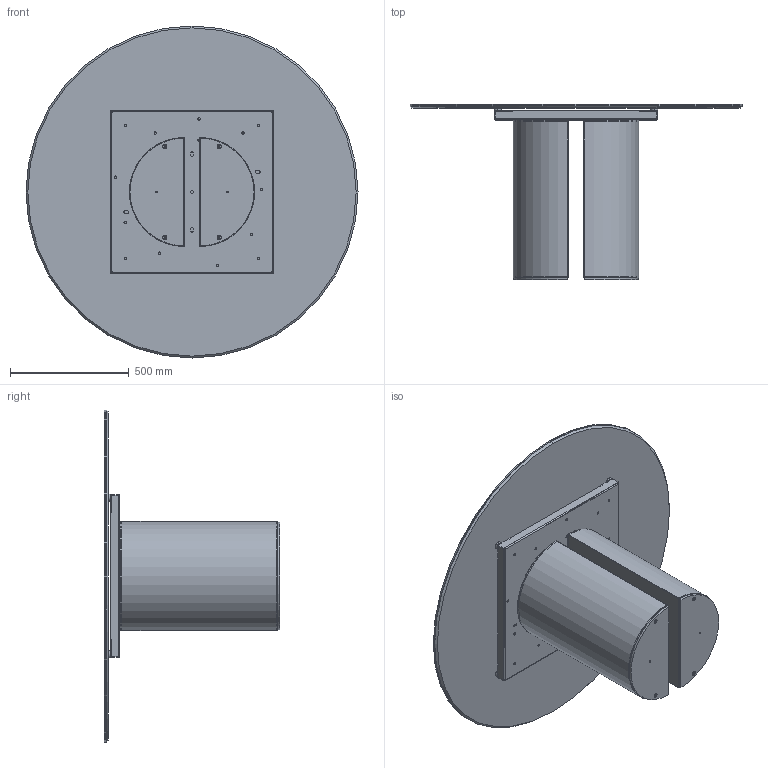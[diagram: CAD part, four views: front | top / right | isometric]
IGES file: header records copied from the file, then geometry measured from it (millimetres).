
Start section: SolidWorks IGES file using analytic representation for surfaces
Global section: file name: Y:\eforma\TECNICO\SOLIDWORKS\E-FORMA\1-TAVOLI\DORA\02 parts\DR06C.IGS; native system: SolidWorks 2022; preprocessor: SolidWorks 2022; author: eforma.tech; date: 240806.145918; units: millimetre
Bounding box: 1400 x 740 x 1400 mm (x, y, z)
Volume: 32355320.6 mm3; surface area: 11259815.7 mm2
Topology: 29 solids, 29 shells, 712 faces, 1788 edges, 1130 vertices
Faces by surface type: plane 360, revolution 352
